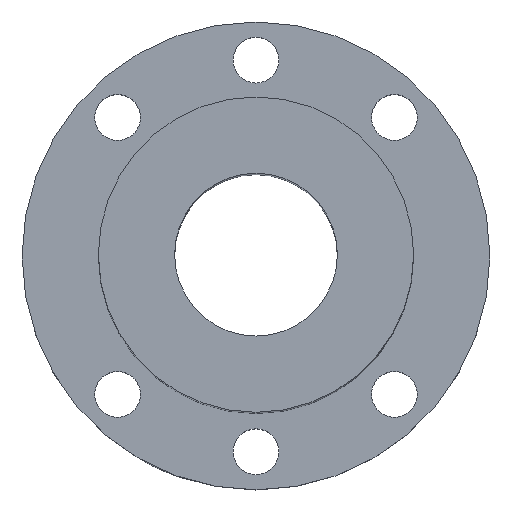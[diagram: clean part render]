
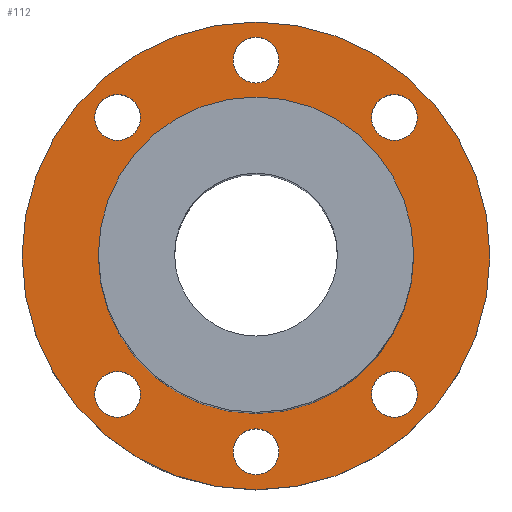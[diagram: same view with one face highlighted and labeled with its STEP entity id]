
A CAD part, top view. The second image highlights one B-rep face of the part: STEP entity #112.
In plain terms, the highlighted planar face has unit normal (0, 0, 1).
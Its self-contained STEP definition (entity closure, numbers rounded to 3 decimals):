
#99=PLANE('',#355);
#112=ADVANCED_FACE('',(#159,#160,#161,#162,#163,#164,#165,#166),#99,.T.);
#159=FACE_BOUND('',#203,.T.);
#160=FACE_BOUND('',#204,.T.);
#161=FACE_BOUND('',#205,.T.);
#162=FACE_BOUND('',#206,.T.);
#163=FACE_BOUND('',#207,.T.);
#164=FACE_BOUND('',#208,.T.);
#165=FACE_BOUND('',#209,.T.);
#166=FACE_BOUND('',#210,.T.);
#203=EDGE_LOOP('',(#247));
#204=EDGE_LOOP('',(#248));
#205=EDGE_LOOP('',(#249));
#206=EDGE_LOOP('',(#250));
#207=EDGE_LOOP('',(#251));
#208=EDGE_LOOP('',(#252));
#209=EDGE_LOOP('',(#253));
#210=EDGE_LOOP('',(#254));
#247=ORIENTED_EDGE('',*,*,#284,.T.);
#248=ORIENTED_EDGE('',*,*,#301,.T.);
#249=ORIENTED_EDGE('',*,*,#300,.T.);
#250=ORIENTED_EDGE('',*,*,#286,.T.);
#251=ORIENTED_EDGE('',*,*,#299,.F.);
#252=ORIENTED_EDGE('',*,*,#298,.F.);
#253=ORIENTED_EDGE('',*,*,#297,.F.);
#254=ORIENTED_EDGE('',*,*,#302,.T.);
#262=VERTEX_POINT('',#437);
#264=VERTEX_POINT('',#499);
#275=VERTEX_POINT('',#582);
#276=VERTEX_POINT('',#585);
#277=VERTEX_POINT('',#588);
#278=VERTEX_POINT('',#591);
#279=VERTEX_POINT('',#594);
#280=VERTEX_POINT('',#597);
#284=EDGE_CURVE('',#262,#262,#306,.T.);
#286=EDGE_CURVE('',#264,#264,#307,.T.);
#297=EDGE_CURVE('',#275,#275,#317,.T.);
#298=EDGE_CURVE('',#276,#276,#318,.T.);
#299=EDGE_CURVE('',#277,#277,#319,.T.);
#300=EDGE_CURVE('',#278,#278,#320,.T.);
#301=EDGE_CURVE('',#279,#279,#321,.T.);
#302=EDGE_CURVE('',#280,#280,#322,.T.);
#306=CIRCLE('',#327,46.);
#307=CIRCLE('',#329,31.);
#317=CIRCLE('',#343,4.5);
#318=CIRCLE('',#345,4.5);
#319=CIRCLE('',#347,4.5);
#320=CIRCLE('',#349,4.5);
#321=CIRCLE('',#351,4.5);
#322=CIRCLE('',#353,4.5);
#327=AXIS2_PLACEMENT_3D('',#436,#365,#366);
#329=AXIS2_PLACEMENT_3D('',#498,#369,#370);
#343=AXIS2_PLACEMENT_3D('',#581,#397,#398);
#345=AXIS2_PLACEMENT_3D('',#584,#401,#402);
#347=AXIS2_PLACEMENT_3D('',#587,#405,#406);
#349=AXIS2_PLACEMENT_3D('',#590,#409,#410);
#351=AXIS2_PLACEMENT_3D('',#593,#413,#414);
#353=AXIS2_PLACEMENT_3D('',#596,#417,#418);
#355=AXIS2_PLACEMENT_3D('',#599,#421,#422);
#365=DIRECTION('',(0.,0.,1.));
#366=DIRECTION('',(1.,0.,0.));
#369=DIRECTION('',(0.,0.,-1.));
#370=DIRECTION('',(1.,0.,0.));
#397=DIRECTION('',(0.,0.,1.));
#398=DIRECTION('',(-1.,0.,0.));
#401=DIRECTION('',(0.,0.,1.));
#402=DIRECTION('',(1.,0.,0.));
#405=DIRECTION('',(0.,0.,1.));
#406=DIRECTION('',(1.,0.,0.));
#409=DIRECTION('',(0.,0.,-1.));
#410=DIRECTION('',(-1.,0.,0.));
#413=DIRECTION('',(0.,0.,-1.));
#414=DIRECTION('',(1.,0.,0.));
#417=DIRECTION('',(0.,0.,-1.));
#418=DIRECTION('',(1.,0.,0.));
#421=DIRECTION('',(0.,0.,1.));
#422=DIRECTION('',(1.,0.,0.));
#436=CARTESIAN_POINT('',(0.,0.,14.));
#437=CARTESIAN_POINT('',(46.,0.,14.));
#498=CARTESIAN_POINT('',(0.,0.,14.));
#499=CARTESIAN_POINT('',(31.,0.,14.));
#581=CARTESIAN_POINT('',(27.224,-27.224,14.));
#582=CARTESIAN_POINT('',(22.724,-27.224,14.));
#584=CARTESIAN_POINT('',(-27.224,27.224,14.));
#585=CARTESIAN_POINT('',(-22.724,27.224,14.));
#587=CARTESIAN_POINT('',(0.,38.5,14.));
#588=CARTESIAN_POINT('',(4.5,38.5,14.));
#590=CARTESIAN_POINT('',(27.224,27.224,14.));
#591=CARTESIAN_POINT('',(22.724,27.224,14.));
#593=CARTESIAN_POINT('',(-27.224,-27.224,14.));
#594=CARTESIAN_POINT('',(-22.724,-27.224,14.));
#596=CARTESIAN_POINT('',(0.,-38.5,14.));
#597=CARTESIAN_POINT('',(4.5,-38.5,14.));
#599=CARTESIAN_POINT('',(-13.612,-13.612,14.));
